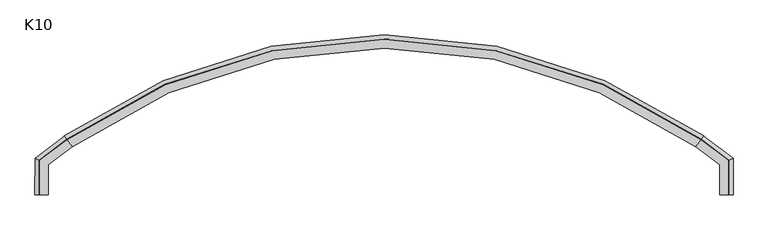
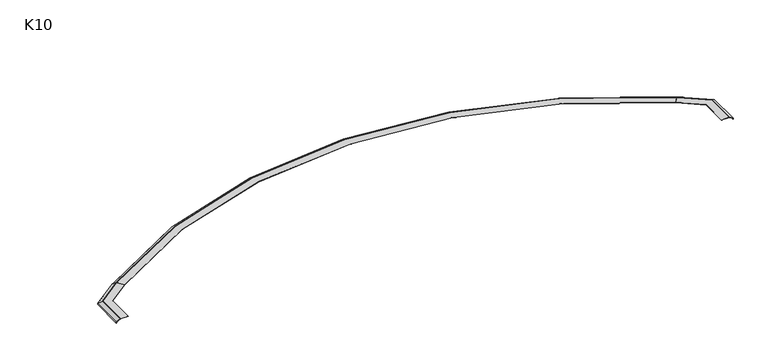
"""IFC4 building model written with IfcOpenShell, lengths in millimetres: proxy geometry, K10 Profil okapowy łukowy : K10."""

from ifc_helpers import new_model, si_unit, frame, origin, place, context, project, spatial, polyline, circle_curve, faceted_brep, source, transform, mapped, element, save
from ifc_brep_helpers import plane_surface, cylinder_surface, revolved_surface, advanced_brep


def k10_43117dd3(model_context):
    return source(origin(), model_context, "Body", "SolidModel", [
        faceted_brep([(4800.8135915, 151.0838747, -3.0), (4818.8236944, 175.0762942, -21.1), (4818.8236944, 175.0762942, -30.42), (4818.0732735, 174.0766101, -29.17), (4818.0732735, 174.0766101, -21.8057194), (4800.8135915, 151.0838747, -4.4598861), (4800.8135915, 151.0838747, -7.25), (4800.0631706, 150.0841905, -7.25), (4800.0631706, 150.0841905, -4.25), (4761.0412811, 98.1006149, -4.25), (4761.0412811, 98.1006149, -3.0), (4800.0631706, 150.0841905, -3.0), (4800.0631706, 150.0841905, 0.0), (4800.8135915, 151.0838747, 0.0), (5001.2488451, 0.6255381, -3.0), (5031.2211271, 15.6384515, -21.1), (5031.2211271, 15.6384515, -30.42), (5029.972282, 15.0129135, -29.17), (5029.972282, 15.0129135, -21.8057194), (5001.2488451, 0.6255381, -4.4598861), (5001.2488451, 0.6255381, -7.25), (5001.7124214, -249.9972602, -7.25), (5000.4624236, -249.9995723, -7.25), (5000.0, 0.0, -7.25), (5000.0, 0.0, -4.25), (5000.4624236, -249.9995723, -4.25), (4935.4625348, -250.1198025, -4.25), (4935.0600557, -32.5279792, -4.25), (4935.0600557, -32.5279792, -3.0), (4935.4625348, -250.1198025, -3.0), (5000.4624236, -249.9995723, -3.0), (5000.0, 0.0, -3.0), (5000.0, 0.0, 0.0), (5000.4624236, -249.9995723, 0.0), (5001.7124214, -249.9972602, 0.0), (5001.2488451, 0.6255381, 0.0), (5001.7124214, -249.9972602, -3.0), (5001.7124214, -249.9972602, -4.4598861), (5030.4623722, -249.9440815, -21.8057194), (5030.4623722, -249.9440815, -29.17), (5031.7123701, -249.9417694, -30.42), (5031.7123701, -249.9417694, -21.1)], [[[0, 1, 2, 3, 4, 5, 6, 7, 8, 9, 10, 11, 12, 13]], [[1, 0, 14, 15]], [[2, 1, 15, 16]], [[3, 2, 16, 17]], [[4, 3, 17, 18]], [[5, 4, 18, 19]], [[6, 5, 19, 20]], [[7, 6, 20, 21, 22, 23]], [[8, 7, 23, 24]], [[9, 8, 24, 25, 26, 27]], [[10, 9, 27, 28]], [[11, 10, 28, 29, 30, 31]], [[12, 11, 31, 32]], [[13, 12, 32, 33, 34, 35]], [[0, 13, 35, 14]], [[36, 34, 33, 30, 29, 26, 25, 22, 21, 37, 38, 39, 40, 41]], [[15, 14, 36, 41]], [[16, 15, 41, 40]], [[17, 16, 40, 39]], [[18, 17, 39, 38]], [[19, 18, 38, 37]], [[20, 19, 37, 21]], [[24, 23, 22, 25]], [[28, 27, 26, 29]], [[32, 31, 30, 33]], [[14, 35, 34, 36]]]),
        faceted_brep([(199.1864699, 151.0839208, -3.0), (199.1864699, 151.0839208, 0.0), (199.9368908, 150.0842366, 0.0), (199.9368908, 150.0842366, -3.0), (238.9587804, 98.100661, -3.0), (238.9587804, 98.100661, -4.25), (199.9368908, 150.0842366, -4.25), (199.9368908, 150.0842366, -7.25), (199.1864699, 151.0839208, -7.25), (199.1864699, 151.0839208, -4.4598861), (181.926788, 174.0766562, -21.8057194), (181.926788, 174.0766562, -29.17), (181.176367, 175.0763403, -30.42), (181.176367, 175.0763403, -21.1), (-31.1938462, 15.6589301, -21.1), (-1.2476949, 0.6264015, -3.0), (-31.1938462, 15.6589301, -30.42), (-29.9460899, 15.0325748, -29.17), (-29.9460899, 15.0325748, -21.8057194), (-1.2476949, 0.6264015, -4.4598861), (-1.2476949, 0.6264015, -7.25), (6.14e-05, 4.61e-05, -7.25), (-0.8986928, -249.9983384, -7.25), (-2.1486847, -249.9938446, -7.25), (6.14e-05, 4.61e-05, -4.25), (64.8833893, -32.5704327, -4.25), (64.1008872, -250.2320145, -4.25), (-0.8986928, -249.9983384, -4.25), (64.8833893, -32.5704327, -3.0), (6.14e-05, 4.61e-05, -3.0), (-0.8986928, -249.9983384, -3.0), (64.1008872, -250.2320145, -3.0), (6.14e-05, 4.61e-05, 0.0), (-1.2476949, 0.6264015, 0.0), (-2.1486847, -249.9938446, 0.0), (-0.8986928, -249.9983384, 0.0), (-2.1486847, -249.9938446, -3.0), (-32.1484908, -249.8859941, -21.1), (-32.1484908, -249.8859941, -30.42), (-30.8984989, -249.8904879, -29.17), (-30.8984989, -249.8904879, -21.8057194), (-2.1486847, -249.9938446, -4.4598861)], [[[0, 1, 2, 3, 4, 5, 6, 7, 8, 9, 10, 11, 12, 13]], [[13, 14, 15, 0]], [[12, 16, 14, 13]], [[11, 17, 16, 12]], [[10, 18, 17, 11]], [[9, 19, 18, 10]], [[8, 20, 19, 9]], [[7, 21, 22, 23, 20, 8]], [[6, 24, 21, 7]], [[5, 25, 26, 27, 24, 6]], [[4, 28, 25, 5]], [[3, 29, 30, 31, 28, 4]], [[2, 32, 29, 3]], [[1, 33, 34, 35, 32, 2]], [[0, 15, 33, 1]], [[36, 37, 38, 39, 40, 41, 23, 22, 27, 26, 31, 30, 35, 34]], [[14, 37, 36, 15]], [[16, 38, 37, 14]], [[17, 39, 38, 16]], [[18, 40, 39, 17]], [[19, 41, 40, 18]], [[20, 23, 41, 19]], [[24, 27, 22, 21]], [[28, 31, 26, 25]], [[32, 35, 30, 29]], [[15, 36, 34, 33]]]),
        advanced_brep(
        [(199.3250413, 151.1681032, -3.0), (182.0753697, 175.7129362, -21.1), (182.0753697, 175.7129362, -30.42), (182.794106, 174.6902348, -29.17), (182.794106, 174.6902348, -21.8057194), (199.3250413, 151.1681032, -4.4598861), (199.3250413, 151.1681032, -7.25), (200.0437777, 150.1454018, -7.25), (200.0437777, 150.1454018, -4.25), (237.4180663, 96.9649303, -4.25), (237.4180663, 96.9649303, -3.0), (200.0437777, 150.1454018, -3.0), (200.0437777, 150.1454018, 0.0), (199.3250413, 151.1681032, 0.0), (4800.6749587, 151.1681032, -3.0), (4800.6749587, 151.1681032, 0.0), (4799.9562223, 150.1454018, 0.0), (4799.9562223, 150.1454018, -3.0), (4762.5819337, 96.9649303, -3.0), (4762.5819337, 96.9649303, -4.25), (4799.9562223, 150.1454018, -4.25), (4799.9562223, 150.1454018, -7.25), (4800.6749587, 151.1681032, -7.25), (4800.6749587, 151.1681032, -4.4598861), (4817.205894, 174.6902348, -21.8057194), (4817.205894, 174.6902348, -29.17), (4817.9246303, 175.7129362, -30.42), (4817.9246303, 175.7129362, -21.1)],
        [
            (0, 1),
            (1, 2),
            (2, 3),
            (3, 4),
            (4, 5),
            (5, 6),
            (6, 7),
            (7, 8),
            (8, 9),
            (9, 10),
            (10, 11),
            (11, 12),
            (12, 13),
            (13, 0),
            (14, 15),
            (15, 16),
            (16, 17),
            (17, 18),
            (18, 19),
            (19, 20),
            (20, 21),
            (21, 22),
            (22, 23),
            (23, 24),
            (24, 25),
            (25, 26),
            (26, 27),
            (27, 14),
            (14, 0, circle_curve(frame((2500.0, -3122.4989992, -3.0), z_axis=(0.0, 0.0, 1.0), x_axis=(-0.5749890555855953, 0.8181611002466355, 0.0)), 4001.25)),
            (13, 15, circle_curve(frame((2500.0, -3122.4989992, 0.0), z_axis=(0.0, 0.0, -1.0), x_axis=(-0.5749890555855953, 0.8181611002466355, 0.0)), 4001.25)),
            (12, 16, circle_curve(frame((2500.0, -3122.4989992, 0.0), z_axis=(0.0, 0.0, -1.0), x_axis=(-0.5749890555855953, 0.8181611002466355, 0.0)), 4000.0)),
            (11, 17, circle_curve(frame((2500.0, -3122.4989992, -3.0), z_axis=(0.0, 0.0, -1.0), x_axis=(-0.5749890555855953, 0.8181611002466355, 0.0)), 4000.0)),
            (10, 18, circle_curve(frame((2500.0, -3122.4989992, -3.0), z_axis=(0.0, 0.0, -1.0), x_axis=(-0.5749890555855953, 0.8181611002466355, 0.0)), 3935.0)),
            (9, 19, circle_curve(frame((2500.0, -3122.4989992, -4.25), z_axis=(0.0, 0.0, -1.0), x_axis=(-0.5749890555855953, 0.8181611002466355, 0.0)), 3935.0)),
            (8, 20, circle_curve(frame((2500.0, -3122.4989992, -4.25), z_axis=(0.0, 0.0, -1.0), x_axis=(-0.5749890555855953, 0.8181611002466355, 0.0)), 4000.0)),
            (7, 21, circle_curve(frame((2500.0, -3122.4989992, -7.25), z_axis=(0.0, 0.0, -1.0), x_axis=(-0.5749890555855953, 0.8181611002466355, 0.0)), 4000.0)),
            (6, 22, circle_curve(frame((2500.0, -3122.4989992, -7.25), z_axis=(0.0, 0.0, -1.0), x_axis=(-0.5749890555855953, 0.8181611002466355, 0.0)), 4001.25)),
            (5, 23, circle_curve(frame((2500.0, -3122.4989992, -4.4598861), z_axis=(0.0, 0.0, -1.0), x_axis=(-0.5749890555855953, 0.8181611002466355, 0.0)), 4001.25)),
            (4, 24, circle_curve(frame((2500.0, -3122.4989992, -21.8057194), z_axis=(0.0, 0.0, -1.0), x_axis=(-0.5749890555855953, 0.8181611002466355, 0.0)), 4030.0)),
            (3, 25, circle_curve(frame((2500.0, -3122.4989992, -29.17), z_axis=(0.0, 0.0, -1.0), x_axis=(-0.5749890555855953, 0.8181611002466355, 0.0)), 4030.0)),
            (2, 26, circle_curve(frame((2500.0, -3122.4989992, -30.42), z_axis=(0.0, 0.0, -1.0), x_axis=(-0.5749890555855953, 0.8181611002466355, 0.0)), 4031.25)),
            (1, 27, circle_curve(frame((2500.0, -3122.4989992, -21.1), z_axis=(0.0, 0.0, -1.0), x_axis=(-0.5749890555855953, 0.8181611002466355, 0.0)), 4031.25)),
        ],
        [
            plane_surface(frame((200.0437777, 150.1454018, 0.0), z_axis=(-0.8181611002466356, -0.5749890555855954, 0.0), x_axis=(0.0, 0.0, 1.0))),
            plane_surface(frame((4799.9562223, 150.1454018, 0.0), z_axis=(0.8181611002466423, -0.5749890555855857, 0.0), x_axis=(0.0, 0.0, 1.0))),
            cylinder_surface(frame((2500.0, -3122.4989992, 0.0), z_axis=(0.0, 0.0, 1.0), x_axis=(-0.5749890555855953, 0.8181611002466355, 0.0)), 4001.25),
            plane_surface(frame((2500.0, -3122.4989992, 0.0), z_axis=(0.0, 0.0, 1.0000000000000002), x_axis=(-0.5749890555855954, 0.8181611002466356, 0.0))),
            revolved_surface(polyline([(200.04377765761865, 150.1454017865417, 0.0), (200.04377765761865, 150.1454017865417, -3.0)]), (2500.0, -3122.4989992, 0.0), (0.0, 0.0, 1.0)),
            plane_surface(frame((2500.0, -3122.4989992, -3.0), z_axis=(0.0, 0.0, 1.0000000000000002), x_axis=(-0.5749890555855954, 0.8181611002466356, 0.0))),
            revolved_surface(polyline([(237.41806627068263, 96.96493027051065, -3.0), (237.41806627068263, 96.96493027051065, -4.25)]), (2500.0, -3122.4989992, 0.0), (0.0, 0.0, 1.0)),
            plane_surface(frame((2500.0, -3122.4989992, -4.25), z_axis=(0.0, 0.0, -1.0000000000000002), x_axis=(-0.5749890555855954, 0.8181611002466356, 0.0))),
            revolved_surface(polyline([(200.04377765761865, 150.1454017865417, -4.25), (200.04377765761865, 150.1454017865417, -7.25)]), (2500.0, -3122.4989992, 0.0), (0.0, 0.0, 1.0)),
            plane_surface(frame((2500.0, -3122.4989992, -7.25), z_axis=(0.0, 0.0, -1.0000000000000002), x_axis=(-0.5749890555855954, 0.8181611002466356, 0.0))),
            revolved_surface(polyline([(199.3250413, 151.1681032, -4.4598861), (182.794106, 174.6902348, -21.8057194)]), (2500.0, -3122.4989992, 0.0), (0.0, 0.0, 1.0)),
            revolved_surface(polyline([(182.79410599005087, 174.69023479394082, -21.8057194), (182.79410599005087, 174.69023479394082, -29.17)]), (2500.0, -3122.4989992, 0.0), (0.0, 0.0, 1.0)),
            revolved_surface(polyline([(182.794106, 174.6902348, -29.17), (182.0753697, 175.7129362, -30.42)]), (2500.0, -3122.4989992, 0.0), (0.0, 0.0, 1.0)),
            cylinder_surface(frame((2500.0, -3122.4989992, 0.0), z_axis=(0.0, 0.0, 1.0), x_axis=(-0.5749890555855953, 0.8181611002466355, 0.0)), 4031.25),
            revolved_surface(polyline([(182.0753697, 175.7129362, -21.1), (199.3250413, 151.1681032, -3.0)]), (2500.0, -3122.4989992, 0.0), (0.0, 0.0, 1.0)),
        ],
        [
            (0, [[1, 2, 3, 4, 5, 6, 7, 8, 9, 10, 11, 12, 13, 14]]),
            (1, [[15, 16, 17, 18, 19, 20, 21, 22, 23, 24, 25, 26, 27, 28]]),
            (2, [[-15, 29, -14, 30]]),
            (3, [[-16, -30, -13, 31]]),
            (4, [[-17, -31, -12, 32]]),
            (5, [[-18, -32, -11, 33]]),
            (6, [[-19, -33, -10, 34]]),
            (7, [[-20, -34, -9, 35]]),
            (8, [[-21, -35, -8, 36]]),
            (9, [[-22, -36, -7, 37]]),
            (2, [[-23, -37, -6, 38]]),
            (10, [[-24, -38, -5, 39]]),
            (11, [[-25, -39, -4, 40]]),
            (12, [[-26, -40, -3, 41]]),
            (13, [[-27, -41, -2, 42]]),
            (14, [[-28, -42, -1, -29]]),
        ],
    ),
    ])


if __name__ == "__main__":
    model = new_model("IFC4")
    model_context = context("Model", 3, world=origin())
    ifc_project = project(units=[si_unit("LENGTHUNIT", "METRE", prefix="MILLI")], contexts=[model_context])
    site = spatial("IfcSite", under=ifc_project)
    building = spatial("IfcBuilding", under=site)
    placement = place(None, origin())
    k10_shape = k10_43117dd3(model_context)
    element("IfcBuildingElementProxy", 1, Name="K10 Profil okapowy łukowy : K10", ObjectType="K10 Profil okapowy łukowy : K10", at=placement, inside=building, context=model_context, shape_type="MappedRepresentation", body=[
        mapped(k10_shape, transform((0.0, 0.0, 0.0), x_axis=(1.0, 0.0, 0.0), y_axis=(0.0, 1.0, 0.0), z_axis=(0.0, 0.0, 1.0))),
    ])
    save(model, "model.ifc")
